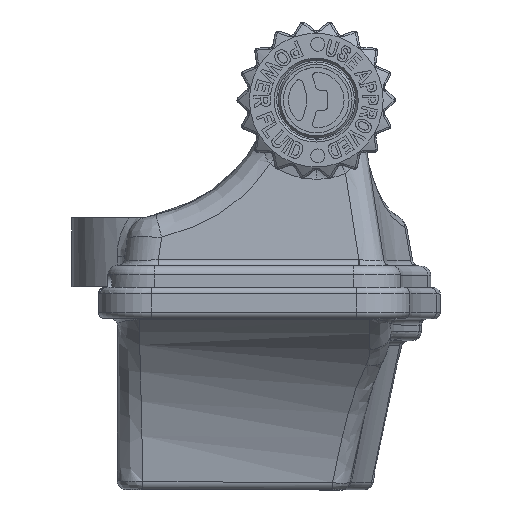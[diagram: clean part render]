
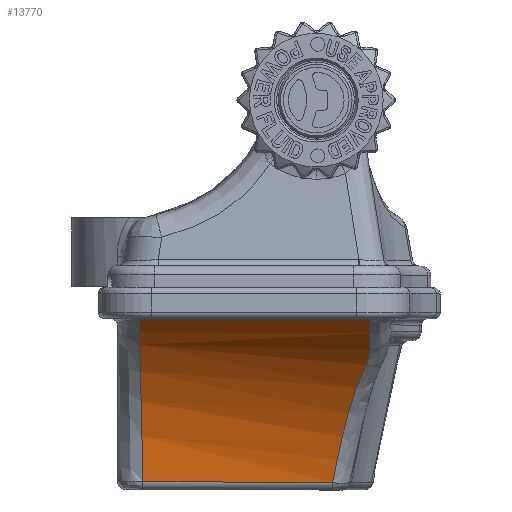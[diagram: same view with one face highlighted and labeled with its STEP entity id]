
A CAD part, top view. The second image highlights one B-rep face of the part: STEP entity #13770.
In plain terms, the highlighted free-form (B-spline) face has degree [3, 3] with [6, 4] control points.
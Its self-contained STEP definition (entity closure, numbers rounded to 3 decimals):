
#4325=CARTESIAN_POINT('',(23.677,-78.713,55.792));
#4366=CARTESIAN_POINT('',(35.22,-78.682,55.809));
#4367=CARTESIAN_POINT('',(33.917,-78.685,55.806));
#4368=CARTESIAN_POINT('',(31.325,-78.691,55.802));
#4369=CARTESIAN_POINT('',(27.478,-78.702,55.796));
#4370=CARTESIAN_POINT('',(24.939,-78.709,55.793));
#4371=CARTESIAN_POINT('',(23.677,-78.713,55.792));
#4378=CARTESIAN_POINT('',(35.22,-78.682,55.809));
#4379=CARTESIAN_POINT('',(35.224,-78.795,55.598));
#4380=CARTESIAN_POINT('',(35.233,-79.089,55.078));
#4381=CARTESIAN_POINT('',(35.248,-79.589,54.308));
#4382=CARTESIAN_POINT('',(35.259,-79.998,53.769));
#4383=CARTESIAN_POINT('',(35.264,-80.201,53.521));
#4385=CARTESIAN_POINT('',(35.264,-80.201,53.521));
#4386=CARTESIAN_POINT('',(35.265,-80.24,53.473));
#4387=CARTESIAN_POINT('',(35.264,-80.324,53.372));
#4388=CARTESIAN_POINT('',(35.248,-80.46,53.214));
#4389=CARTESIAN_POINT('',(35.213,-80.615,53.043));
#4390=CARTESIAN_POINT('',(35.155,-80.787,52.86));
#4391=CARTESIAN_POINT('',(35.1,-80.909,52.739));
#4392=CARTESIAN_POINT('',(35.067,-80.972,52.677));
#4394=CARTESIAN_POINT('',(35.067,-80.972,52.677));
#4395=CARTESIAN_POINT('',(35.067,-80.972,52.677));
#4396=CARTESIAN_POINT('',(34.876,-81.341,52.319));
#4397=CARTESIAN_POINT('',(34.542,-82.131,51.649));
#4398=CARTESIAN_POINT('',(34.145,-83.433,50.817));
#4399=CARTESIAN_POINT('',(33.81,-84.814,50.163));
#4400=CARTESIAN_POINT('',(33.566,-85.972,49.772));
#4401=CARTESIAN_POINT('',(33.427,-86.67,49.593));
#4402=CARTESIAN_POINT('',(33.386,-86.877,49.545));
#4404=CARTESIAN_POINT('',(33.386,-86.877,49.546));
#4405=CARTESIAN_POINT('',(32.306,-86.87,49.747));
#4406=CARTESIAN_POINT('',(30.161,-86.856,50.147));
#4407=CARTESIAN_POINT('',(26.99,-86.835,50.737));
#4408=CARTESIAN_POINT('',(24.905,-86.82,51.123));
#4409=CARTESIAN_POINT('',(23.871,-86.812,51.315));
#4411=CARTESIAN_POINT('',(23.871,-86.812,51.315));
#4412=CARTESIAN_POINT('',(23.867,-86.609,51.34));
#4413=CARTESIAN_POINT('',(23.858,-86.181,51.401));
#4414=CARTESIAN_POINT('',(23.846,-85.539,51.525));
#4415=CARTESIAN_POINT('',(23.832,-84.89,51.684));
#4416=CARTESIAN_POINT('',(23.819,-84.259,51.874));
#4417=CARTESIAN_POINT('',(23.805,-83.644,52.095));
#4418=CARTESIAN_POINT('',(23.791,-83.044,52.35));
#4419=CARTESIAN_POINT('',(23.778,-82.461,52.637));
#4420=CARTESIAN_POINT('',(23.764,-81.897,52.956));
#4421=CARTESIAN_POINT('',(23.75,-81.352,53.307));
#4422=CARTESIAN_POINT('',(23.737,-80.822,53.693));
#4423=CARTESIAN_POINT('',(23.722,-80.294,54.125));
#4424=CARTESIAN_POINT('',(23.708,-79.753,54.624));
#4425=CARTESIAN_POINT('',(23.692,-79.218,55.183));
#4426=CARTESIAN_POINT('',(23.682,-78.875,55.589));
#4427=CARTESIAN_POINT('',(23.677,-78.713,55.792));
#5533=VERTEX_POINT('',#4325);
#5534=VERTEX_POINT('',#4411);
#5535=VERTEX_POINT('',#4366);
#5536=VERTEX_POINT('',#4383);
#5537=VERTEX_POINT('',#4392);
#5538=VERTEX_POINT('',#4402);
#13733=CARTESIAN_POINT('',(23.445,-86.997,
51.373));
#13734=CARTESIAN_POINT('',(27.463,-86.99,
50.623));
#13735=CARTESIAN_POINT('',(31.48,-86.983,
49.874));
#13736=CARTESIAN_POINT('',(35.497,-86.976,
49.124));
#13737=CARTESIAN_POINT('',(23.445,-86.965,
51.376));
#13738=CARTESIAN_POINT('',(27.463,-86.957,
50.629));
#13739=CARTESIAN_POINT('',(31.48,-86.949,
49.882));
#13740=CARTESIAN_POINT('',(35.497,-86.941,
49.134));
#13741=CARTESIAN_POINT('',(23.445,-83.531,
51.731));
#13742=CARTESIAN_POINT('',(27.463,-83.421,
51.236));
#13743=CARTESIAN_POINT('',(31.48,-83.311,
50.742));
#13744=CARTESIAN_POINT('',(35.497,-83.201,
50.248));
#13745=CARTESIAN_POINT('',(23.445,-80.741,
53.239));
#13746=CARTESIAN_POINT('',(27.463,-80.634,
52.995));
#13747=CARTESIAN_POINT('',(31.48,-80.527,
52.752));
#13748=CARTESIAN_POINT('',(35.497,-80.42,
52.508));
#13749=CARTESIAN_POINT('',(23.445,-78.649,
55.873));
#13750=CARTESIAN_POINT('',(27.463,-78.648,
55.873));
#13751=CARTESIAN_POINT('',(31.48,-78.648,
55.873));
#13752=CARTESIAN_POINT('',(35.497,-78.648,
55.872));
#13753=CARTESIAN_POINT('',(23.445,-78.629,
55.899));
#13754=CARTESIAN_POINT('',(27.463,-78.629,
55.901));
#13755=CARTESIAN_POINT('',(31.48,-78.63,
55.903));
#13756=CARTESIAN_POINT('',(35.497,-78.631,
55.904));
#13757=B_SPLINE_SURFACE_WITH_KNOTS('',3,3,((#13733,#13734,#13735,#13736),
(#13737,#13738,#13739,#13740),(#13741,#13742,#13743,#13744),(#13745,#13746,
#13747,#13748),(#13749,#13750,#13751,#13752),(#13753,#13754,#13755,#13756)),
.UNSPECIFIED.,.F.,.F.,.F.,(4,1,1,4),(4,4),(-0.009,0.,1.,
1.01),(0.,1.),.UNSPECIFIED.);
#13758=ORIENTED_EDGE('',*,*,#13724,.F.);
#13760=ORIENTED_EDGE('',*,*,#13759,.T.);
#13762=ORIENTED_EDGE('',*,*,#13761,.T.);
#13764=ORIENTED_EDGE('',*,*,#13763,.T.);
#13766=ORIENTED_EDGE('',*,*,#13765,.T.);
#13767=ORIENTED_EDGE('',*,*,#13642,.T.);
#13768=EDGE_LOOP('',(#13758,#13760,#13762,#13764,#13766,#13767));
#13769=FACE_OUTER_BOUND('',#13768,.F.);
#13770=ADVANCED_FACE('',(#13769),#13757,.F.);
#4372=B_SPLINE_CURVE_WITH_KNOTS('',3,(#4366,#4367,#4368,#4369,#4370,#4371),
.UNSPECIFIED.,.F.,.F.,(4,1,1,4),(0.,0.333,0.667,1.),
.UNSPECIFIED.);
#4384=B_SPLINE_CURVE_WITH_KNOTS('',3,(#4378,#4379,#4380,#4381,#4382,#4383),
.UNSPECIFIED.,.F.,.F.,(4,1,1,4),(0.,0.26,0.65,1.),
.UNSPECIFIED.);
#4393=B_SPLINE_CURVE_WITH_KNOTS('',3,(#4385,#4386,#4387,#4388,#4389,#4390,#4391,
#4392),.UNSPECIFIED.,.F.,.F.,(4,1,1,1,1,4),(0.,0.159,
0.338,0.537,0.758,1.),.UNSPECIFIED.);
#4403=B_SPLINE_CURVE_WITH_KNOTS('',3,(#4394,#4395,#4396,#4397,#4398,#4399,#4400,
#4401,#4402),.UNSPECIFIED.,.F.,.F.,(4,1,1,1,1,1,4),(0.,0.,
0.235,0.465,0.685,0.907,1.),
.UNSPECIFIED.);
#4410=B_SPLINE_CURVE_WITH_KNOTS('',3,(#4404,#4405,#4406,#4407,#4408,#4409),
.UNSPECIFIED.,.F.,.F.,(4,1,1,4),(0.,0.333,0.667,1.),
.UNSPECIFIED.);
#4428=B_SPLINE_CURVE_WITH_KNOTS('',3,(#4411,#4412,#4413,#4414,#4415,#4416,#4417,
#4418,#4419,#4420,#4421,#4422,#4423,#4424,#4425,#4426,#4427),.UNSPECIFIED.,.F.,
.F.,(4,1,1,1,1,1,1,1,1,1,1,1,1,1,4),(0.,0.064,0.135,
0.205,0.274,0.343,0.412,
0.48,0.549,0.617,0.686,
0.756,0.833,0.919,1.),.UNSPECIFIED.);
#13642=EDGE_CURVE('',#5534,#5533,#4428,.T.);
#13724=EDGE_CURVE('',#5535,#5533,#4372,.T.);
#13759=EDGE_CURVE('',#5535,#5536,#4384,.T.);
#13761=EDGE_CURVE('',#5536,#5537,#4393,.T.);
#13763=EDGE_CURVE('',#5537,#5538,#4403,.T.);
#13765=EDGE_CURVE('',#5538,#5534,#4410,.T.);
